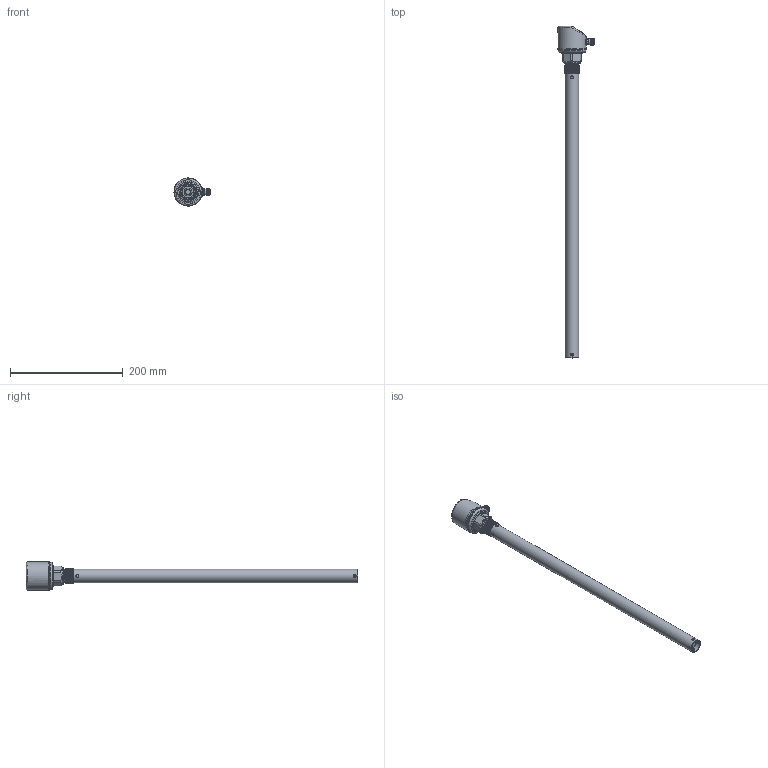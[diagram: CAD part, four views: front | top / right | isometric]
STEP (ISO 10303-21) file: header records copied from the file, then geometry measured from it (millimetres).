
FILE_DESCRIPTION (( 'STEP AP214' ), '1' );
FILE_NAME ('3-4数显电容-500（同轴）.STEP', '2025-03-11T06:18:14', ( '' ), ( '' ), 'SwSTEP 2.0', 'SolidWorks 2020', '' );
FILE_SCHEMA (( 'AUTOMOTIVE_DESIGN' ));
Length unit declared in the file: millimetre
Products named in the file (9): 揤薯奻裔; PVC躇猾菜; 偌瑩簽; 3-4数显电容-500（同轴）; 滅阨諉芛褲极1; 肮粣奪; 恦謫抻芛5; 抻芛ㄗ蟀哿講ㄘ; 揤薯珆尨欶
Assembly tree (10 placements, depth 2):
  3-4数显电容-500（同轴）
    揤薯奻裔
    揤薯珆尨欶
    滅阨諉芛褲极1
    偌瑩簽  x3
    PVC躇猾菜
    恦謫抻芛5
    抻芛ㄗ蟀哿講ㄘ
    肮粣奪
Bounding box: 64 x 590.1 x 50 mm (x, y, z)
Volume: 130657.7 mm3; surface area: 120351.9 mm2
Topology: 10 solids, 10 shells, 318 faces, 752 edges, 486 vertices
Faces by surface type: plane 128, cylinder 118, cone 44, bspline 13, torus 11, sphere 4
Full cylindrical faces by diameter (mm): 1 x4, 1.2 x3, 1.8 x1, 2 x3, 2.5 x6, 2.8 x1, 4.3 x3, 4.5 x6, 5 x8, 6 x1, 7.2 x1, 8 x1, 8.5 x1, 9.75 x1, 10 x1, 10.49 x1, 10.5 x1, 10.8 x1, 10.9 x1, 11 x2, 12 x1, 21 x2, 24 x2, 29.5 x1, 35 x1, 37 x1, 43.9 x1, 45.4 x1, 45.6 x2, 48 x3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
Entity records: 14721 total; most frequent: CARTESIAN_POINT 7955, DIRECTION 1314, ORIENTED_EDGE 1104, EDGE_CURVE 552, AXIS2_PLACEMENT_3D 536, EDGE_LOOP 479, VERTEX_POINT 411, FACE_OUTER_BOUND 359
